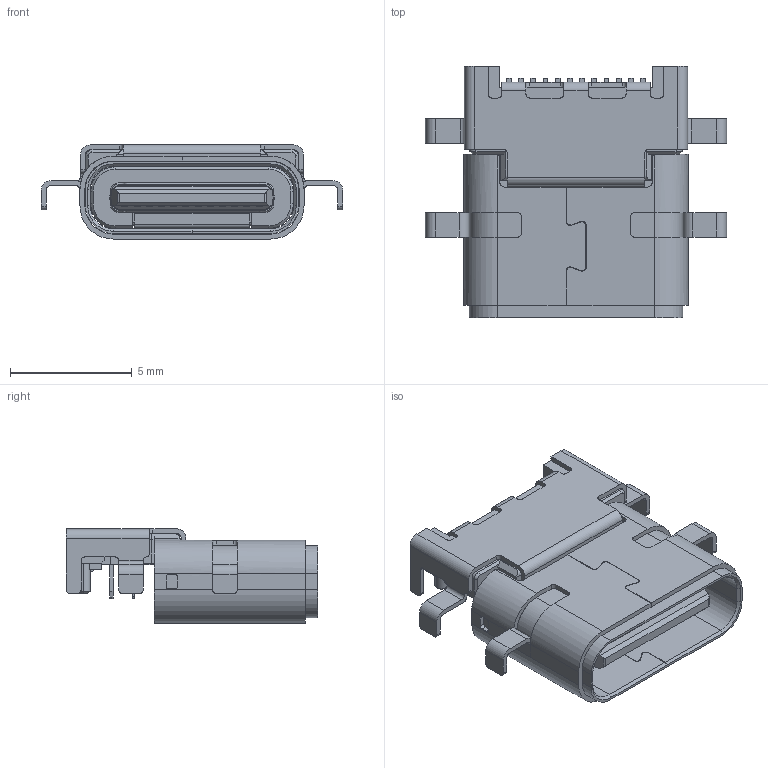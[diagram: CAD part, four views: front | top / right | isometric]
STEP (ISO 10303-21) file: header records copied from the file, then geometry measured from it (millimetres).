
FILE_DESCRIPTION((''),'2;1');
FILE_NAME('ASM0001_ASM','2022-03-24T19:13:19',('Administrator'),(''),'CREO PARAMETRIC BY PTC INC, 2020154','CREO PARAMETRIC BY PTC INC, 2020154','');
FILE_SCHEMA(('CONFIG_CONTROL_DESIGN','SHAPE_APPEARANCE_LAYERS_GROUPS'));
Products named in the file (3): PRT0001; 22222222222222; ASM0001_ASM
Assembly tree (2 placements, depth 2):
  ASM0001_ASM
    PRT0001
    22222222222222
Bounding box: 12.35 x 10.3 x 3.86 mm (x, y, z)
Volume: 150.5 mm3; surface area: 1344 mm2
Topology: 2 solids, 56 shells, 1875 faces, 5042 edges, 3259 vertices
Faces by surface type: plane 1432, cylinder 359, cone 72, sphere 8, bspline 4
Entity records: 69993 total; most frequent: CARTESIAN_POINT 10768, ORIENTED_EDGE 10028, DIRECTION 9527, EDGE_CURVE 5038, VECTOR 4073, LINE 4073, VERTEX_POINT 3259, AXIS2_PLACEMENT_3D 2727
